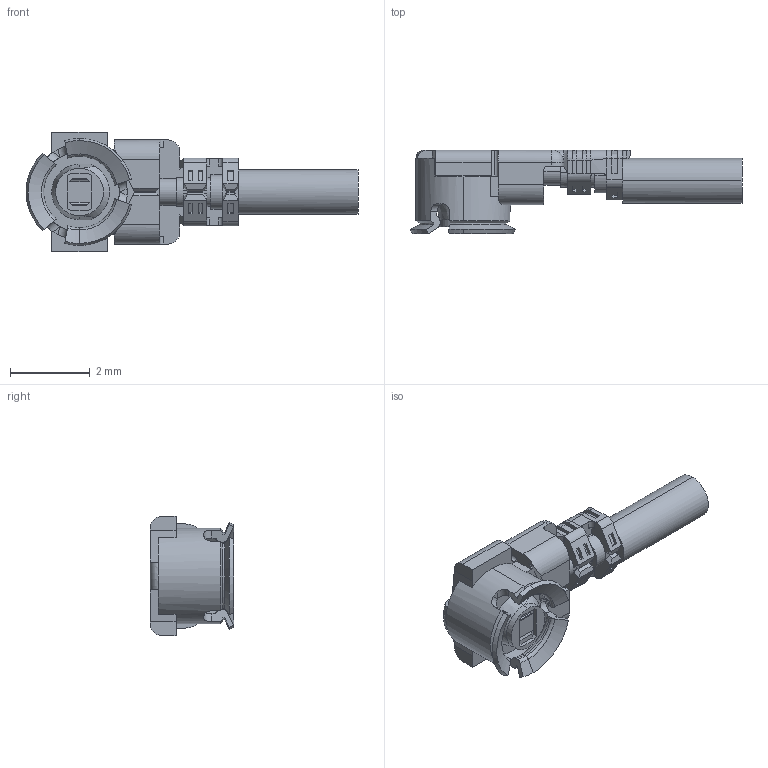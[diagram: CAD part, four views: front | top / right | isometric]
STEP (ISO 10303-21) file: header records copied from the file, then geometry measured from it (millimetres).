
FILE_DESCRIPTION (( 'STEP AP203' ), '1' );
FILE_NAME ('20278-1xxR-13C PLUG R15 STEP ALL.STEP', '2018-07-03T08:48:25', ( '' ), ( '' ), 'SwSTEP 2.0', 'SolidWorks 2017', '' );
FILE_SCHEMA (( 'CONFIG_CONTROL_DESIGN' ));
Length unit declared in the file: millimetre
Products named in the file (1): 20278-1xxR-13C PLUG R15 STEP ALL
Bounding box: 8.35 x 2.1 x 3 mm (x, y, z)
Volume: 17.5 mm3; surface area: 71.6 mm2
Topology: 1 solids, 1 shells, 378 faces, 1031 edges, 664 vertices
Faces by surface type: plane 218, cylinder 88, bspline 37, cone 22, torus 11, sphere 2
Entity records: 13424 total; most frequent: CARTESIAN_POINT 4079, ORIENTED_EDGE 2054, DIRECTION 1752, EDGE_CURVE 1027, VECTOR 680, LINE 680, VERTEX_POINT 664, AXIS2_PLACEMENT_3D 536
